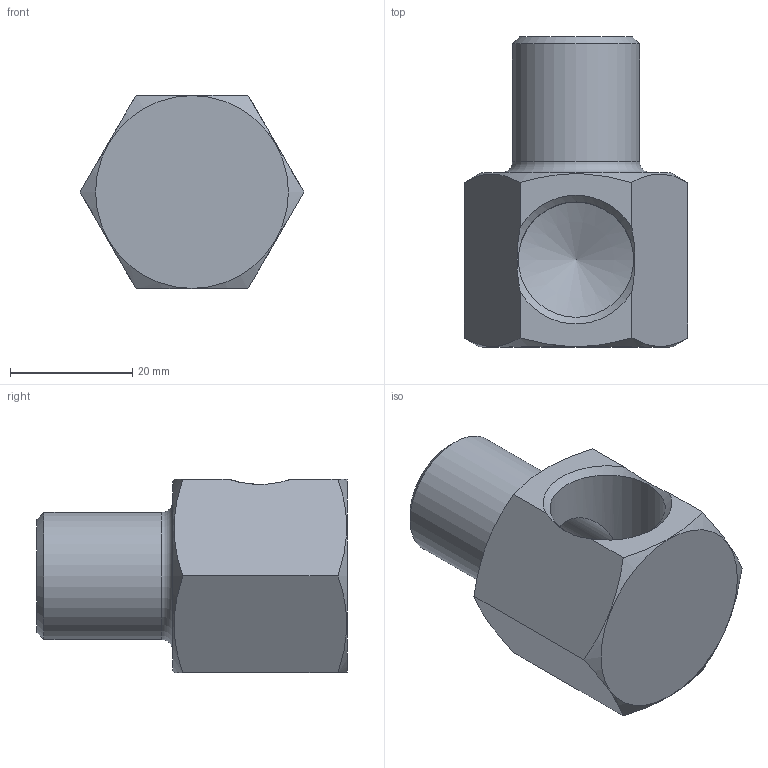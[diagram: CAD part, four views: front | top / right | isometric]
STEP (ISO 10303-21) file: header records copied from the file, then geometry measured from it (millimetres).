
FILE_DESCRIPTION(/* description */ (''),/* implementation_level */ '2;1');
FILE_NAME(/* name */ 'C:/Users/drich/Desktop/M50S-M50SB v1.step',/* time_stamp */ '2019-12-27T18:06:10-06:00',/* author */ (''),/* organization */ (''),/* preprocessor_version */ 'ST-DEVELOPER v18',/* originating_system */ 'Autodesk Translation Framework v8.12.0.6',/* authorisation */ '');
FILE_SCHEMA (('AUTOMOTIVE_DESIGN { 1 0 10303 214 3 1 1 }'));
Length unit declared in the file: inch
Products named in the file (1): M50S-M50SB
Bounding box: 36.66 x 50.8 x 31.75 mm (x, y, z)
Volume: 20370.9 mm3; surface area: 8511.6 mm2
Topology: 1 solids, 1 shells, 20 faces, 53 edges, 35 vertices
Faces by surface type: plane 10, cone 6, cylinder 3, torus 1
Full cylindrical faces by diameter (mm): 15.062 x1, 18.901 x1, 20.813 x1
Entity records: 687 total; most frequent: CARTESIAN_POINT 184, ORIENTED_EDGE 104, DIRECTION 91, EDGE_CURVE 52, AXIS2_PLACEMENT_3D 37, VERTEX_POINT 35, EDGE_LOOP 23, FACE_OUTER_BOUND 20
